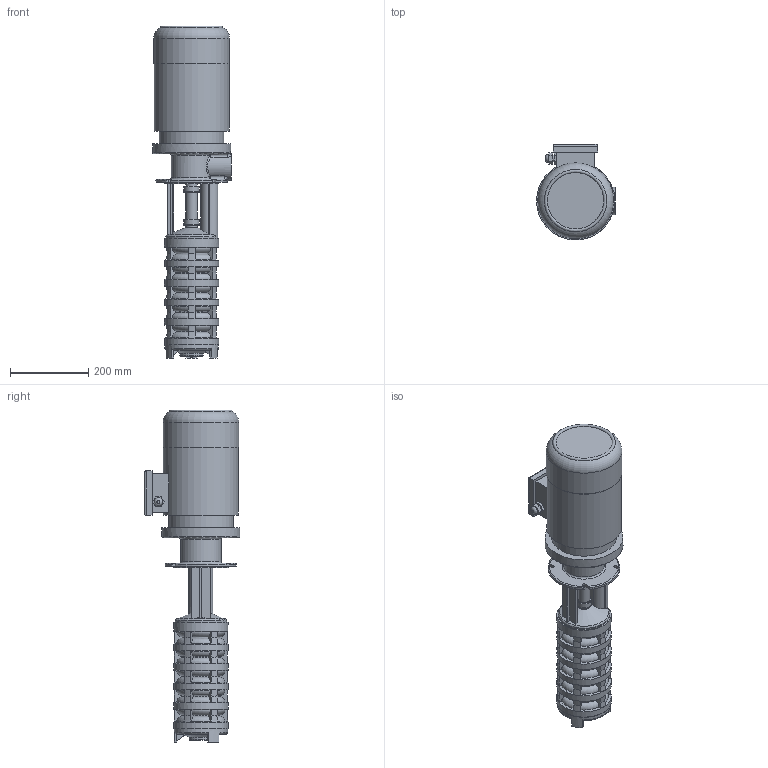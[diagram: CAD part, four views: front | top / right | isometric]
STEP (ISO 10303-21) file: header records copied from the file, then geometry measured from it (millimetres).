
FILE_DESCRIPTION(/* description */ ('Unknown'),/* implementation_level */ '2;1');
FILE_NAME(/* name */ 'gp6-450',/* time_stamp */ '2025-06-17T14:02:03+03:00',/* author */ ('Unknown'),/* organization */ ('Unknown'),/* preprocessor_version */ 'ST-DEVELOPER v16.7',/* originating_system */ 'DEX',/* authorisation */ $);
FILE_SCHEMA (('AUTOMOTIVE_DESIGN {1 0 10303 214 3 1 1}'));
Length unit declared in the file: millimetre
Products named in the file (1): gp6-450
Bounding box: 202 x 245.5 x 850.5 mm (x, y, z)
Volume: 15285886 mm3; surface area: 629679.4 mm2
Topology: 1 solids, 1 shells, 519 faces, 1394 edges, 908 vertices
Faces by surface type: plane 170, cylinder 101, cone 87, bspline 84, torus 77
Full cylindrical faces by diameter (mm): 17 x1, 21.5 x1, 29 x3, 33 x2, 35 x2, 39 x2, 40.5 x2, 45 x1, 47 x1, 60 x1, 137 x1, 139 x6, 140 x1, 165 x1, 192.353 x1, 194 x1, 200 x1
Entity records: 18825 total; most frequent: CARTESIAN_POINT 6351, ORIENTED_EDGE 2630, DIRECTION 2499, EDGE_CURVE 1315, AXIS2_PLACEMENT_3D 955, VERTEX_POINT 889, EDGE_LOOP 614, FACE_BOUND 614
